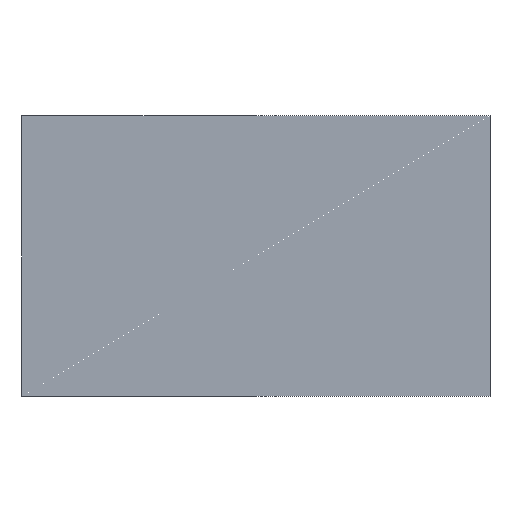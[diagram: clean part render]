
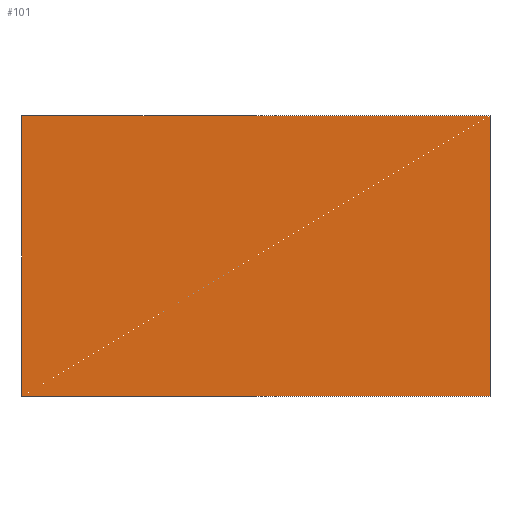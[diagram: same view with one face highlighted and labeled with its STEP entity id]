
A CAD part, left-side view. The second image highlights one B-rep face of the part: STEP entity #101.
In plain terms, the highlighted planar face has unit normal (-1, 0, 0).
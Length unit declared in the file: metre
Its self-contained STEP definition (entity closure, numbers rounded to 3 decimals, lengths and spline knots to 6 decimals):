
#24=ORIENTED_EDGE('',*,*,#46,.F.);
#25=ORIENTED_EDGE('',*,*,#39,.F.);
#26=ORIENTED_EDGE('',*,*,#47,.T.);
#27=ORIENTED_EDGE('',*,*,#44,.T.);
#39=EDGE_CURVE('',#51,#49,#59,.T.);
#44=EDGE_CURVE('',#55,#54,#64,.T.);
#46=EDGE_CURVE('',#49,#54,#66,.T.);
#47=EDGE_CURVE('',#51,#55,#67,.T.);
#49=VERTEX_POINT('',#153);
#51=VERTEX_POINT('',#157);
#54=VERTEX_POINT('',#167);
#55=VERTEX_POINT('',#169);
#59=LINE('',#158,#71);
#64=LINE('',#168,#76);
#66=LINE('',#172,#78);
#67=LINE('',#173,#79);
#71=VECTOR('',#130,1.);
#76=VECTOR('',#139,1.);
#78=VECTOR('',#143,1.);
#79=VECTOR('',#144,1.);
#83=EDGE_LOOP('',(#24,#25,#26,#27));
#89=FACE_BOUND('',#83,.T.);
#95=PLANE('',#120);
#101=ADVANCED_FACE('',(#89),#95,.T.);
#120=AXIS2_PLACEMENT_3D('',#171,#141,#142);
#130=DIRECTION('',(0.,0.,-1.));
#139=DIRECTION('',(0.,0.,-1.));
#141=DIRECTION('',(-1.,0.,0.));
#142=DIRECTION('',(0.,-1.,0.));
#143=DIRECTION('',(0.,1.,0.));
#144=DIRECTION('',(0.,1.,0.));
#153=CARTESIAN_POINT('',(-0.05969,-0.0254,0.));
#157=CARTESIAN_POINT('',(-0.05969,-0.0254,0.03048));
#158=CARTESIAN_POINT('',(-0.05969,-0.0254,0.03048));
#167=CARTESIAN_POINT('',(-0.05969,0.0254,0.));
#168=CARTESIAN_POINT('',(-0.05969,0.0254,0.03048));
#169=CARTESIAN_POINT('',(-0.05969,0.0254,0.03048));
#171=CARTESIAN_POINT('',(-0.05969,0.,0.03048));
#172=CARTESIAN_POINT('',(-0.05969,0.,0.));
#173=CARTESIAN_POINT('',(-0.05969,0.,0.03048));
